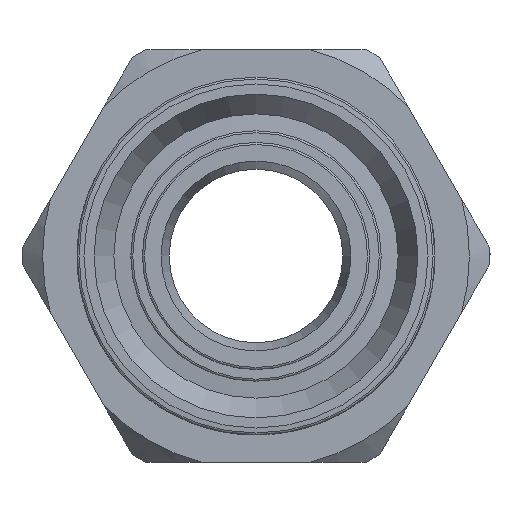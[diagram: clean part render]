
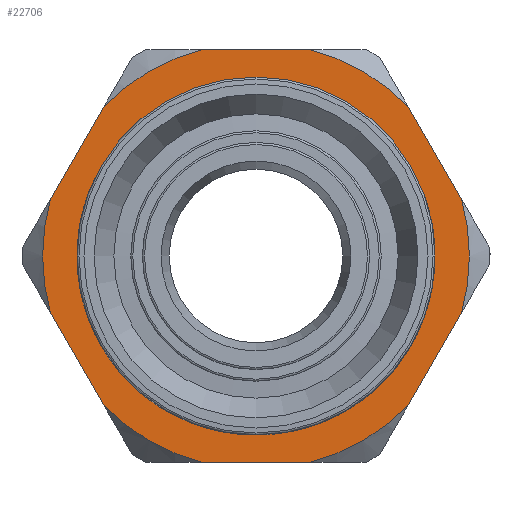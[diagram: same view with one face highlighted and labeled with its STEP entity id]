
A CAD part, left-side view. The second image highlights one B-rep face of the part: STEP entity #22706.
In plain terms, the highlighted planar face has unit normal (-1, 0, 0).
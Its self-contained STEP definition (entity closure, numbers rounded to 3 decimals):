
#42=FACE_BOUND('',#3320,.T.);
#206=PLANE('',#24050);
#1318=CIRCLE('',#24051,15.5);
#1319=CIRCLE('',#24052,15.5);
#1320=CIRCLE('',#24053,15.5);
#1321=CIRCLE('',#24054,15.5);
#1322=CIRCLE('',#24055,15.5);
#1323=CIRCLE('',#24056,15.5);
#1324=CIRCLE('',#24057,11.21);
#1325=CIRCLE('',#24058,11.21);
#2000=FACE_OUTER_BOUND('',#3319,.T.);
#3319=EDGE_LOOP('',(#15430,#15431,#15432,#15433,#15434,#15435,#15436,#15437,
#15438,#15439,#15440,#15441));
#3320=EDGE_LOOP('',(#15442,#15443));
#6203=LINE('',#31145,#7725);
#6207=LINE('',#31170,#7729);
#6211=LINE('',#31195,#7733);
#6215=LINE('',#31220,#7737);
#6219=LINE('',#31245,#7741);
#6223=LINE('',#31270,#7745);
#7725=VECTOR('',#25344,10.);
#7729=VECTOR('',#25350,10.);
#7733=VECTOR('',#25356,10.);
#7737=VECTOR('',#25362,10.);
#7741=VECTOR('',#25368,10.);
#7745=VECTOR('',#25374,10.);
#9266=VERTEX_POINT('',#31140);
#9267=VERTEX_POINT('',#31144);
#9274=VERTEX_POINT('',#31165);
#9275=VERTEX_POINT('',#31169);
#9282=VERTEX_POINT('',#31190);
#9283=VERTEX_POINT('',#31194);
#9290=VERTEX_POINT('',#31215);
#9291=VERTEX_POINT('',#31219);
#9298=VERTEX_POINT('',#31240);
#9299=VERTEX_POINT('',#31244);
#9306=VERTEX_POINT('',#31265);
#9307=VERTEX_POINT('',#31269);
#9309=VERTEX_POINT('',#31283);
#9310=VERTEX_POINT('',#31284);
#11720=EDGE_CURVE('',#9267,#9266,#6203,.T.);
#11728=EDGE_CURVE('',#9275,#9274,#6207,.T.);
#11736=EDGE_CURVE('',#9283,#9282,#6211,.T.);
#11744=EDGE_CURVE('',#9291,#9290,#6215,.T.);
#11752=EDGE_CURVE('',#9299,#9298,#6219,.T.);
#11760=EDGE_CURVE('',#9307,#9306,#6223,.T.);
#11763=EDGE_CURVE('',#9275,#9266,#1318,.T.);
#11764=EDGE_CURVE('',#9283,#9274,#1319,.T.);
#11765=EDGE_CURVE('',#9291,#9282,#1320,.T.);
#11766=EDGE_CURVE('',#9299,#9290,#1321,.T.);
#11767=EDGE_CURVE('',#9307,#9298,#1322,.T.);
#11768=EDGE_CURVE('',#9267,#9306,#1323,.T.);
#11769=EDGE_CURVE('',#9309,#9310,#1324,.T.);
#11770=EDGE_CURVE('',#9310,#9309,#1325,.T.);
#15430=ORIENTED_EDGE('',*,*,#11720,.T.);
#15431=ORIENTED_EDGE('',*,*,#11763,.F.);
#15432=ORIENTED_EDGE('',*,*,#11728,.T.);
#15433=ORIENTED_EDGE('',*,*,#11764,.F.);
#15434=ORIENTED_EDGE('',*,*,#11736,.T.);
#15435=ORIENTED_EDGE('',*,*,#11765,.F.);
#15436=ORIENTED_EDGE('',*,*,#11744,.T.);
#15437=ORIENTED_EDGE('',*,*,#11766,.F.);
#15438=ORIENTED_EDGE('',*,*,#11752,.T.);
#15439=ORIENTED_EDGE('',*,*,#11767,.F.);
#15440=ORIENTED_EDGE('',*,*,#11760,.T.);
#15441=ORIENTED_EDGE('',*,*,#11768,.F.);
#15442=ORIENTED_EDGE('',*,*,#11769,.T.);
#15443=ORIENTED_EDGE('',*,*,#11770,.T.);
#22706=ADVANCED_FACE('',(#2000,#42),#206,.T.);
#24050=AXIS2_PLACEMENT_3D('',#31276,#25376,#25377);
#24051=AXIS2_PLACEMENT_3D('',#31277,#25378,#25379);
#24052=AXIS2_PLACEMENT_3D('',#31278,#25380,#25381);
#24053=AXIS2_PLACEMENT_3D('',#31279,#25382,#25383);
#24054=AXIS2_PLACEMENT_3D('',#31280,#25384,#25385);
#24055=AXIS2_PLACEMENT_3D('',#31281,#25386,#25387);
#24056=AXIS2_PLACEMENT_3D('',#31282,#25388,#25389);
#24057=AXIS2_PLACEMENT_3D('',#31285,#25390,#25391);
#24058=AXIS2_PLACEMENT_3D('',#31286,#25392,#25393);
#25344=DIRECTION('',(0.,-0.5,-0.866));
#25350=DIRECTION('',(0.,-1.,0.));
#25356=DIRECTION('',(0.,-0.5,0.866));
#25362=DIRECTION('',(0.,0.5,0.866));
#25368=DIRECTION('',(0.,1.,0.));
#25374=DIRECTION('',(0.,0.5,-0.866));
#25376=DIRECTION('center_axis',(-1.,0.,0.));
#25377=DIRECTION('ref_axis',(0.,0.,1.));
#25378=DIRECTION('center_axis',(1.,0.,0.));
#25379=DIRECTION('ref_axis',(0.,-1.,0.));
#25380=DIRECTION('center_axis',(1.,0.,0.));
#25381=DIRECTION('ref_axis',(0.,-1.,0.));
#25382=DIRECTION('center_axis',(1.,0.,0.));
#25383=DIRECTION('ref_axis',(0.,-1.,0.));
#25384=DIRECTION('center_axis',(1.,0.,0.));
#25385=DIRECTION('ref_axis',(0.,-1.,0.));
#25386=DIRECTION('center_axis',(1.,0.,0.));
#25387=DIRECTION('ref_axis',(0.,-1.,0.));
#25388=DIRECTION('center_axis',(1.,0.,0.));
#25389=DIRECTION('ref_axis',(0.,-1.,0.));
#25390=DIRECTION('center_axis',(1.,0.,0.));
#25391=DIRECTION('ref_axis',(0.,0.,-1.));
#25392=DIRECTION('center_axis',(1.,0.,0.));
#25393=DIRECTION('ref_axis',(0.,0.,-1.));
#31140=CARTESIAN_POINT('',(7.201,11.038,-10.882));
#31144=CARTESIAN_POINT('',(7.201,14.943,-4.118));
#31145=CARTESIAN_POINT('',(7.201,12.95,-7.569));
#31165=CARTESIAN_POINT('',(7.201,-3.905,-15.));
#31169=CARTESIAN_POINT('',(7.201,3.905,-15.));
#31170=CARTESIAN_POINT('',(7.201,4.17,-15.));
#31190=CARTESIAN_POINT('',(7.201,-14.943,-4.118));
#31194=CARTESIAN_POINT('',(7.201,-11.038,-10.882));
#31195=CARTESIAN_POINT('',(7.201,-13.03,-7.431));
#31215=CARTESIAN_POINT('',(7.201,-11.038,10.882));
#31219=CARTESIAN_POINT('',(7.201,-14.943,4.118));
#31220=CARTESIAN_POINT('',(7.201,-8.7,14.931));
#31240=CARTESIAN_POINT('',(7.201,3.905,15.));
#31244=CARTESIAN_POINT('',(7.201,-3.905,15.));
#31245=CARTESIAN_POINT('',(7.201,12.83,15.));
#31265=CARTESIAN_POINT('',(7.201,14.943,4.118));
#31269=CARTESIAN_POINT('',(7.201,11.038,10.882));
#31270=CARTESIAN_POINT('',(7.201,17.28,0.069));
#31276=CARTESIAN_POINT('Origin',(7.201,17.,0.));
#31277=CARTESIAN_POINT('Origin',(7.201,0.,0.));
#31278=CARTESIAN_POINT('Origin',(7.201,0.,0.));
#31279=CARTESIAN_POINT('Origin',(7.201,0.,0.));
#31280=CARTESIAN_POINT('Origin',(7.201,0.,0.));
#31281=CARTESIAN_POINT('Origin',(7.201,0.,0.));
#31282=CARTESIAN_POINT('Origin',(7.201,0.,0.));
#31283=CARTESIAN_POINT('',(7.201,11.21,0.));
#31284=CARTESIAN_POINT('',(7.201,-11.21,0.));
#31285=CARTESIAN_POINT('Origin',(7.201,0.,0.));
#31286=CARTESIAN_POINT('Origin',(7.201,0.,0.));
